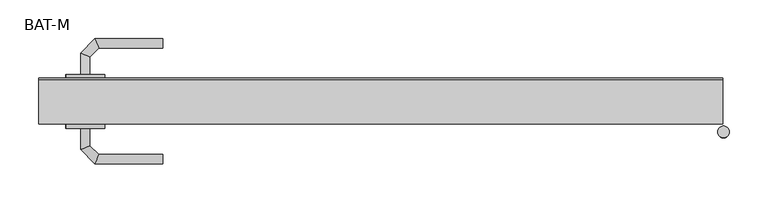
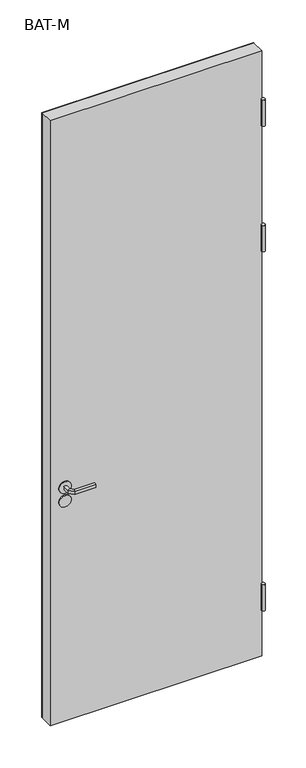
"""IFC4 building model written with IfcOpenShell, lengths in millimetres: proxy geometry, BAT-M : Défaut."""

from ifc_helpers import new_model, si_unit, point, frame, frame_2d, origin, place, context, project, spatial, polyline, circle_curve, ellipse_curve, trimmed, segment, composite_curve, outline, extrude, source, transform, mapped, element, save
from ifc_brep_helpers import plane_surface, cylinder_surface, advanced_brep


def bat_m_6efa0f8f(model_context):
    return source(origin(), model_context, "Body", "SolidModel", [
        extrude(outline(composite_curve([segment(trimmed(circle_curve(frame_2d((1051.0, -822.7739009)), 25.0), [point((1051.0, -847.7739009))], [point((1051.0, -797.7739009))], False, "CARTESIAN"), True, "CONTINUOUS"), segment(trimmed(circle_curve(frame_2d((1051.0, -822.7739009)), 25.0), [point((1051.0, -797.7739009))], [point((1051.0, -847.7739009))], False, "CARTESIAN"), True, "CONTINUOUS")], self_intersect=False)), frame((0.0, 59.5, 0.0), z_axis=(0.0, 1.0, 0.0), x_axis=(0.0, 0.0, 1.0)), (0.0, 0.0, 1.0), 5.0),
        extrude(outline(composite_curve([segment(trimmed(circle_curve(frame_2d((991.25, -822.9257392)), 25.0), [point((991.25, -847.9257392))], [point((991.25, -797.9257392))], False, "CARTESIAN"), True, "CONTINUOUS"), segment(trimmed(circle_curve(frame_2d((991.25, -822.9257392)), 25.0), [point((991.25, -797.9257392))], [point((991.25, -847.9257392))], False, "CARTESIAN"), True, "CONTINUOUS")], self_intersect=False)), frame((0.0, 59.5, 0.0), z_axis=(0.0, 1.0, 0.0), x_axis=(0.0, 0.0, 1.0)), (0.0, 0.0, 1.0), 5.0),
        advanced_brep(
        [(-817.0, 64.5, 1044.0), (-817.0, 64.5, 1058.0), (-829.0, 64.5, 1058.0), (-829.0, 64.5, 1044.0), (-817.0, 86.9852045, 1044.0), (-817.0, 86.9852045, 1058.0), (-829.0, 91.9557673, 1058.0), (-829.0, 91.9557673, 1044.0), (-805.5147186, 98.4704859, 1044.0), (-805.5147186, 98.4704859, 1058.0), (-810.4852814, 110.4704859, 1058.0), (-810.4852814, 110.4704859, 1044.0), (-722.9542163, 98.4704859, 1044.0), (-722.9542163, 110.4704859, 1044.0), (-722.9542163, 110.4704859, 1058.0), (-722.9542163, 98.4704859, 1058.0)],
        [
            (0, 1),
            (1, 2, circle_curve(frame((-823.0, 64.5, 1037.9542278), z_axis=(0.0, -1.0, 0.0), x_axis=(-1.0, 0.0, 0.0)), 20.9244589)),
            (2, 3),
            (3, 0, circle_curve(frame((-823.0, 64.5, 1064.0457722), z_axis=(0.0, -1.0, 0.0), x_axis=(-1.0, 0.0, 0.0)), 20.9244589)),
            (0, 4),
            (4, 5),
            (5, 1),
            (5, 6, ellipse_curve(frame((-823.0, 89.4704859, 1037.9542278), z_axis=(-0.3826834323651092, -0.9238795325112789, 0.0), x_axis=(0.9238795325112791, -0.3826834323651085, 0.0)), 22.6484711, 20.9244589)),
            (6, 2),
            (6, 7),
            (7, 3),
            (7, 4, ellipse_curve(frame((-823.0, 89.4704859, 1064.0457722), z_axis=(-0.3826834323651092, -0.9238795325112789, 0.0), x_axis=(0.9238795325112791, -0.3826834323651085, 0.0)), 22.6484711, 20.9244589)),
            (4, 8),
            (8, 9),
            (9, 5),
            (9, 10, ellipse_curve(frame((-808.0, 104.4704859, 1037.9542278), z_axis=(-0.923879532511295, -0.38268343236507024, 0.0), x_axis=(0.3826834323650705, -0.9238795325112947, 0.0)), 22.6484711, 20.9244589)),
            (10, 6),
            (10, 11),
            (11, 7),
            (11, 8, ellipse_curve(frame((-808.0, 104.4704859, 1064.0457722), z_axis=(-0.923879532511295, -0.38268343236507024, 0.0), x_axis=(0.3826834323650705, -0.9238795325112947, 0.0)), 22.6484711, 20.9244589)),
            (12, 13, circle_curve(frame((-722.9542163, 104.4704859, 1064.0457722), z_axis=(1.0, 0.0, 0.0), x_axis=(0.0, 1.0, 0.0)), 20.9244589)),
            (13, 14),
            (14, 15, circle_curve(frame((-722.9542163, 104.4704859, 1037.9542278), z_axis=(1.0, 0.0, 0.0), x_axis=(0.0, 1.0, 0.0)), 20.9244589)),
            (15, 12),
            (8, 12),
            (15, 9),
            (14, 10),
            (13, 11),
        ],
        [
            plane_surface(frame((-832.2195445, 64.5, 1051.0), z_axis=(0.0, -1.0, 0.0), x_axis=(0.0, 0.0, 1.0))),
            plane_surface(frame((-817.0, 64.5, 1044.0), z_axis=(1.0, 0.0, 0.0), x_axis=(0.0, 1.0, 0.0))),
            cylinder_surface(frame((-823.0, 64.5, 1037.9542278), z_axis=(0.0, -1.0, 0.0), x_axis=(-1.0, 0.0, 0.0)), 20.9244589),
            plane_surface(frame((-829.0, 64.5, 1058.0), z_axis=(-1.0, 0.0, 0.0), x_axis=(0.0, 1.0, 0.0))),
            cylinder_surface(frame((-823.0, 64.5, 1064.0457722), z_axis=(0.0, -1.0, 0.0), x_axis=(-1.0, 0.0, 0.0)), 20.9244589),
            plane_surface(frame((-817.0, 86.9852045, 1044.0), z_axis=(0.7071067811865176, -0.7071067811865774, 0.0), x_axis=(0.7071067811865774, 0.7071067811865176, 0.0))),
            cylinder_surface(frame((-823.0, 89.4704859, 1037.9542278), z_axis=(-0.7071067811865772, -0.7071067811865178, 0.0), x_axis=(-0.7071067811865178, 0.7071067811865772, 0.0)), 20.9244589),
            plane_surface(frame((-829.0, 91.9557673, 1058.0), z_axis=(-0.7071067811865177, 0.7071067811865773, 0.0), x_axis=(0.7071067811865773, 0.7071067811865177, 0.0))),
            cylinder_surface(frame((-823.0, 89.4704859, 1064.0457722), z_axis=(-0.7071067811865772, -0.7071067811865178, 0.0), x_axis=(-0.7071067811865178, 0.7071067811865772, 0.0)), 20.9244589),
            plane_surface(frame((-722.9542163, 104.4704859, 1041.7804555), z_axis=(1.0, 0.0, 0.0), x_axis=(0.0, 1.0, 0.0))),
            plane_surface(frame((-805.5147186, 98.4704859, 1044.0), z_axis=(0.0, -1.0, 0.0), x_axis=(1.0, 0.0, 0.0))),
            cylinder_surface(frame((-808.0, 104.4704859, 1037.9542278), z_axis=(-1.0, 0.0, 0.0), x_axis=(0.0, 1.0, 0.0)), 20.9244589),
            plane_surface(frame((-810.4852814, 110.4704859, 1058.0), z_axis=(0.0, 1.0, 0.0), x_axis=(1.0, 0.0, 0.0))),
            cylinder_surface(frame((-808.0, 104.4704859, 1064.0457722), z_axis=(-1.0, 0.0, 0.0), x_axis=(0.0, 1.0, 0.0)), 20.9244589),
        ],
        [
            (0, [[1, 2, 3, 4]]),
            (1, [[-1, 5, 6, 7]]),
            (2, [[-2, -7, 8, 9]]),
            (3, [[-3, -9, 10, 11]]),
            (4, [[-4, -11, 12, -5]]),
            (5, [[-6, 13, 14, 15]]),
            (6, [[-8, -15, 16, 17]]),
            (7, [[-10, -17, 18, 19]]),
            (8, [[-12, -19, 20, -13]]),
            (9, [[21, 22, 23, 24]]),
            (10, [[-14, 25, -24, 26]]),
            (11, [[-16, -26, -23, 27]]),
            (12, [[-18, -27, -22, 28]]),
            (13, [[-20, -28, -21, -25]]),
        ],
    ),
        advanced_brep(
        [(-829.0, -5.0, 1058.0), (-817.0, -5.0, 1058.0), (-817.0, -5.0, 1044.0), (-829.0, -5.0, 1044.0), (-829.0, -32.6509507, 1058.0), (-817.0, -27.680388, 1058.0), (-817.0, -27.680388, 1044.0), (-829.0, -32.6509507, 1044.0), (-810.62279, -51.0281607, 1058.0), (-805.6522273, -39.0281607, 1058.0), (-805.6522273, -39.0281607, 1044.0), (-810.62279, -51.0281607, 1044.0), (-722.9813594, -51.0281607, 1058.0), (-722.9813594, -51.0281607, 1044.0), (-722.9813594, -39.0281607, 1044.0), (-722.9813594, -39.0281607, 1058.0)],
        [
            (0, 1, circle_curve(frame((-823.0, -5.0, 1037.9542278), z_axis=(0.0, 1.0, 0.0), x_axis=(1.0, 0.0, 0.0)), 20.9244589)),
            (1, 2),
            (2, 3, circle_curve(frame((-823.0, -5.0, 1064.0457722), z_axis=(0.0, 1.0, 0.0), x_axis=(1.0, 0.0, 0.0)), 20.9244589)),
            (3, 0),
            (0, 4),
            (4, 5, ellipse_curve(frame((-823.0, -30.1656693, 1037.9542278), z_axis=(-0.38268343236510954, 0.9238795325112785, 0.0), x_axis=(0.9238795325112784, 0.38268343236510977, 0.0)), 22.6484711, 20.9244589)),
            (5, 1),
            (5, 6),
            (6, 2),
            (6, 7, ellipse_curve(frame((-823.0, -30.1656693, 1064.0457722), z_axis=(-0.38268343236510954, 0.9238795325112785, 0.0), x_axis=(0.9238795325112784, 0.38268343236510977, 0.0)), 22.6484711, 20.9244589)),
            (7, 3),
            (7, 4),
            (4, 8),
            (8, 9, ellipse_curve(frame((-808.1375086, -45.0281607, 1037.9542278), z_axis=(-0.9238795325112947, 0.38268343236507, 0.0), x_axis=(0.38268343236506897, 0.9238795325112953, 0.0)), 22.6484711, 20.9244589)),
            (9, 5),
            (9, 10),
            (10, 6),
            (10, 11, ellipse_curve(frame((-808.1375086, -45.0281607, 1064.0457722), z_axis=(-0.9238795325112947, 0.38268343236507, 0.0), x_axis=(0.38268343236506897, 0.9238795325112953, 0.0)), 22.6484711, 20.9244589)),
            (11, 7),
            (11, 8),
            (12, 13),
            (13, 14, circle_curve(frame((-722.9813594, -45.0281607, 1064.0457722), z_axis=(1.0, 0.0, 0.0), x_axis=(0.0, 1.0, 0.0)), 20.9244589)),
            (14, 15),
            (15, 12, circle_curve(frame((-722.9813594, -45.0281607, 1037.9542278), z_axis=(1.0, 0.0, 0.0), x_axis=(0.0, 1.0, 0.0)), 20.9244589)),
            (8, 12),
            (15, 9),
            (14, 10),
            (13, 11),
        ],
        [
            plane_surface(frame((-832.2195445, -5.0, 1051.0), z_axis=(0.0, 1.0, 0.0), x_axis=(0.0, 0.0, -1.0))),
            cylinder_surface(frame((-823.0, -5.0, 1037.9542278), z_axis=(0.0, 1.0, 0.0), x_axis=(1.0, 0.0, 0.0)), 20.9244589),
            plane_surface(frame((-817.0, -5.0, 1058.0), z_axis=(1.0, 0.0, 0.0), x_axis=(0.0, -1.0, 0.0))),
            cylinder_surface(frame((-823.0, -5.0, 1064.0457722), z_axis=(0.0, 1.0, 0.0), x_axis=(1.0, 0.0, 0.0)), 20.9244589),
            plane_surface(frame((-829.0, -5.0, 1044.0), z_axis=(-1.0, 0.0, 0.0), x_axis=(0.0, -1.0, 0.0))),
            cylinder_surface(frame((-823.0, -30.1656693, 1037.9542278), z_axis=(-0.7071067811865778, 0.7071067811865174, 0.0), x_axis=(0.7071067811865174, 0.7071067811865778, 0.0)), 20.9244589),
            plane_surface(frame((-817.0, -27.680388, 1058.0), z_axis=(0.707106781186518, 0.7071067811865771, 0.0), x_axis=(0.7071067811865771, -0.707106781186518, 0.0))),
            cylinder_surface(frame((-823.0, -30.1656693, 1064.0457722), z_axis=(-0.7071067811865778, 0.7071067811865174, 0.0), x_axis=(0.7071067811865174, 0.7071067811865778, 0.0)), 20.9244589),
            plane_surface(frame((-829.0, -32.6509507, 1044.0), z_axis=(-0.7071067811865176, -0.7071067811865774, 0.0), x_axis=(0.7071067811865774, -0.7071067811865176, 0.0))),
            plane_surface(frame((-722.9813594, -45.0281607, 1041.7804555), z_axis=(1.0, 0.0, 0.0), x_axis=(0.0, 1.0, 0.0))),
            cylinder_surface(frame((-808.1375086, -45.0281607, 1037.9542278), z_axis=(-1.0, 0.0, 0.0), x_axis=(0.0, 1.0, 0.0)), 20.9244589),
            plane_surface(frame((-805.6522273, -39.0281607, 1058.0), z_axis=(0.0, 1.0, 0.0), x_axis=(1.0, 0.0, 0.0))),
            cylinder_surface(frame((-808.1375086, -45.0281607, 1064.0457722), z_axis=(-1.0, 0.0, 0.0), x_axis=(0.0, 1.0, 0.0)), 20.9244589),
            plane_surface(frame((-810.62279, -51.0281607, 1044.0), z_axis=(0.0, -1.0, 0.0), x_axis=(1.0, 0.0, 0.0))),
        ],
        [
            (0, [[1, 2, 3, 4]]),
            (1, [[-1, 5, 6, 7]]),
            (2, [[-2, -7, 8, 9]]),
            (3, [[-3, -9, 10, 11]]),
            (4, [[-4, -11, 12, -5]]),
            (5, [[-6, 13, 14, 15]]),
            (6, [[-8, -15, 16, 17]]),
            (7, [[-10, -17, 18, 19]]),
            (8, [[-12, -19, 20, -13]]),
            (9, [[21, 22, 23, 24]]),
            (10, [[-14, 25, -24, 26]]),
            (11, [[-16, -26, -23, 27]]),
            (12, [[-18, -27, -22, 28]]),
            (13, [[-20, -28, -21, -25]]),
        ],
    ),
        extrude(outline(composite_curve([segment(trimmed(circle_curve(frame_2d((1051.0, -822.7739009)), 25.0), [point((1051.0, -847.7739009))], [point((1051.0, -797.7739009))], False, "CARTESIAN"), True, "CONTINUOUS"), segment(trimmed(circle_curve(frame_2d((1051.0, -822.7739009)), 25.0), [point((1051.0, -797.7739009))], [point((1051.0, -847.7739009))], False, "CARTESIAN"), True, "CONTINUOUS")], self_intersect=False)), frame((0.0, -5.0, 0.0), z_axis=(0.0, 1.0, 0.0), x_axis=(0.0, 0.0, 1.0)), (0.0, 0.0, 1.0), 5.0),
        extrude(outline(composite_curve([segment(trimmed(circle_curve(frame_2d((991.0, -822.9257392)), 25.0), [point((991.0, -847.9257392))], [point((991.0, -797.9257392))], False, "CARTESIAN"), True, "CONTINUOUS"), segment(trimmed(circle_curve(frame_2d((991.0, -822.9257392)), 25.0), [point((991.0, -797.9257392))], [point((991.0, -847.9257392))], False, "CARTESIAN"), True, "CONTINUOUS")], self_intersect=False)), frame((0.0, -5.0, 0.0), z_axis=(0.0, 1.0, 0.0), x_axis=(0.0, 0.0, 1.0)), (0.0, 0.0, 1.0), 5.0),
        extrude(outline(polyline([(-1.0, 57.5), (-883.0, 57.5), (-883.0, 59.5), (-1.0, 59.5), (-1.0, 57.5)])), frame((0.0, 0.0, 19.0), z_axis=(0.0, 0.0, 1.0), x_axis=(1.0, 0.0, 0.0)), (0.0, 0.0, 1.0), 2668.0),
        extrude(outline(polyline([(-883.0, 57.5), (-883.0, 59.5), (-1.0, 59.5), (-1.0, 57.5), (-883.0, 57.5)])), frame((0.0, 0.0, 19.0), z_axis=(0.0, 0.0, 1.0), x_axis=(1.0, 0.0, 0.0)), (0.0, 0.0, 1.0), 2668.0),
        extrude(outline(polyline([(-883.0, 59.5), (-1.0, 59.5), (-1.0, 0.0), (-883.0, 0.0), (-883.0, 59.5)])), frame((0.0, 0.0, 19.0), z_axis=(0.0, 0.0, 1.0), x_axis=(1.0, 0.0, 0.0)), (0.0, 0.0, 1.0), 2668.0),
        extrude(outline(composite_curve([segment(trimmed(circle_curve(frame_2d((0.0, -10.0)), 7.5), [point((7.5, -10.0))], [point((-7.5, -10.0))], False, "CARTESIAN"), True, "CONTINUOUS"), segment(trimmed(circle_curve(frame_2d((0.0, -10.0)), 7.5), [point((-7.5, -10.0))], [point((7.5, -10.0))], False, "CARTESIAN"), True, "CONTINUOUS")], self_intersect=False)), frame((0.0, 0.0, 2364.5), z_axis=(0.0, 0.0, 1.0), x_axis=(1.0, 0.0, 0.0)), (0.0, 0.0, 1.0), 115.0),
        extrude(outline(composite_curve([segment(trimmed(circle_curve(frame_2d((0.0, -10.0)), 7.5), [point((7.5, -10.0))], [point((-7.5, -10.0))], False, "CARTESIAN"), True, "CONTINUOUS"), segment(trimmed(circle_curve(frame_2d((0.0, -10.0)), 7.5), [point((-7.5, -10.0))], [point((7.5, -10.0))], False, "CARTESIAN"), True, "CONTINUOUS")], self_intersect=False)), frame((0.0, 0.0, 1811.5), z_axis=(0.0, 0.0, 1.0), x_axis=(1.0, 0.0, 0.0)), (0.0, 0.0, 1.0), 115.0),
        extrude(outline(composite_curve([segment(trimmed(circle_curve(frame_2d((0.0, -10.0)), 7.5), [point((7.5, -10.0))], [point((-7.5, -10.0))], False, "CARTESIAN"), True, "CONTINUOUS"), segment(trimmed(circle_curve(frame_2d((0.0, -10.0)), 7.5), [point((-7.5, -10.0))], [point((7.5, -10.0))], False, "CARTESIAN"), True, "CONTINUOUS")], self_intersect=False)), frame((0.0, 0.0, 226.5), z_axis=(0.0, 0.0, 1.0), x_axis=(1.0, 0.0, 0.0)), (0.0, 0.0, 1.0), 115.0),
    ])


if __name__ == "__main__":
    model = new_model("IFC4")
    model_context = context("Model", 3, world=origin())
    ifc_project = project(units=[si_unit("LENGTHUNIT", "METRE", prefix="MILLI")], contexts=[model_context])
    site = spatial("IfcSite", under=ifc_project)
    building = spatial("IfcBuilding", under=site)
    placement = place(None, origin())
    bat_m_shape = bat_m_6efa0f8f(model_context)
    element("IfcBuildingElementProxy", 1, Name="BAT-M : Défaut", ObjectType="BAT-M : Défaut", at=placement, inside=building, context=model_context, shape_type="MappedRepresentation", body=[
        mapped(bat_m_shape, transform((0.0, 0.0, 0.0), x_axis=(1.0, 0.0, 0.0), y_axis=(0.0, 1.0, 0.0), z_axis=(0.0, 0.0, 1.0))),
    ])
    save(model, "model.ifc")
